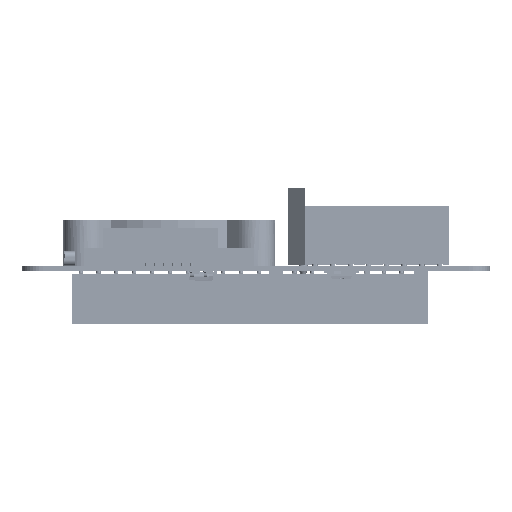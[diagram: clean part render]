
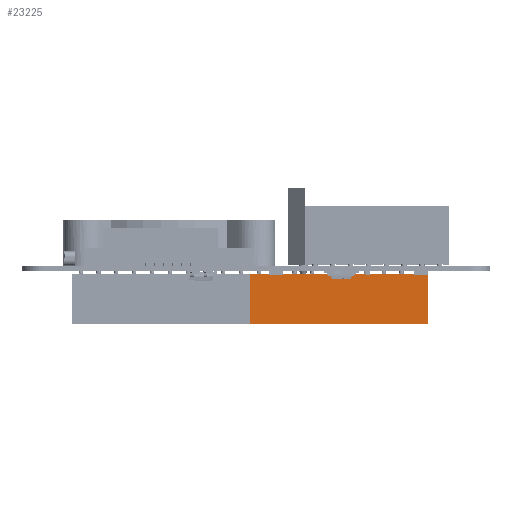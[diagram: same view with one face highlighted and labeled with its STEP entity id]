
A CAD part, front view. The second image highlights one B-rep face of the part: STEP entity #23225.
In plain terms, the highlighted planar face has unit normal (0, -1, 0) as drawn and (1, 0, 0) by its records, which use the part's own axes.
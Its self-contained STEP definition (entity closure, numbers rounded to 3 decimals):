
#20288 = VERTEX_POINT('',#20289);
#20289 = CARTESIAN_POINT('',(2.5,10.16,-7.1));
#20295 = EDGE_CURVE('',#20288,#20296,#20298,.T.);
#20296 = VERTEX_POINT('',#20297);
#20297 = CARTESIAN_POINT('',(2.5,-15.24,-7.1));
#20298 = LINE('',#20299,#20300);
#20299 = CARTESIAN_POINT('',(2.5,10.16,-7.1));
#20300 = VECTOR('',#20301,1.);
#20301 = DIRECTION('',(0.,-1.,0.));
#20681 = EDGE_CURVE('',#20296,#20682,#20684,.T.);
#20682 = VERTEX_POINT('',#20683);
#20683 = CARTESIAN_POINT('',(2.5,-15.24,0.));
#20684 = LINE('',#20685,#20686);
#20685 = CARTESIAN_POINT('',(2.5,-15.24,-7.1));
#20686 = VECTOR('',#20687,1.);
#20687 = DIRECTION('',(0.,0.,1.));
#20738 = VERTEX_POINT('',#20739);
#20739 = CARTESIAN_POINT('',(2.5,10.16,0.));
#20747 = EDGE_CURVE('',#20682,#20738,#20748,.T.);
#20748 = LINE('',#20749,#20750);
#20749 = CARTESIAN_POINT('',(2.5,-15.24,0.));
#20750 = VECTOR('',#20751,1.);
#20751 = DIRECTION('',(0.,1.,0.));
#23208 = EDGE_CURVE('',#20288,#20738,#23209,.T.);
#23209 = LINE('',#23210,#23211);
#23210 = CARTESIAN_POINT('',(2.5,10.16,-7.1));
#23211 = VECTOR('',#23212,1.);
#23212 = DIRECTION('',(0.,0.,1.));
#23225 = ADVANCED_FACE('',(#23226),#23232,.T.);
#23226 = FACE_BOUND('',#23227,.T.);
#23227 = EDGE_LOOP('',(#23228,#23229,#23230,#23231));
#23228 = ORIENTED_EDGE('',*,*,#23208,.T.);
#23229 = ORIENTED_EDGE('',*,*,#20747,.F.);
#23230 = ORIENTED_EDGE('',*,*,#20681,.F.);
#23231 = ORIENTED_EDGE('',*,*,#20295,.F.);
#23232 = PLANE('',#23233);
#23233 = AXIS2_PLACEMENT_3D('',#23234,#23235,#23236);
#23234 = CARTESIAN_POINT('',(2.5,7.62,-7.1));
#23235 = DIRECTION('',(1.,0.,0.));
#23236 = DIRECTION('',(-0.,1.,0.));
